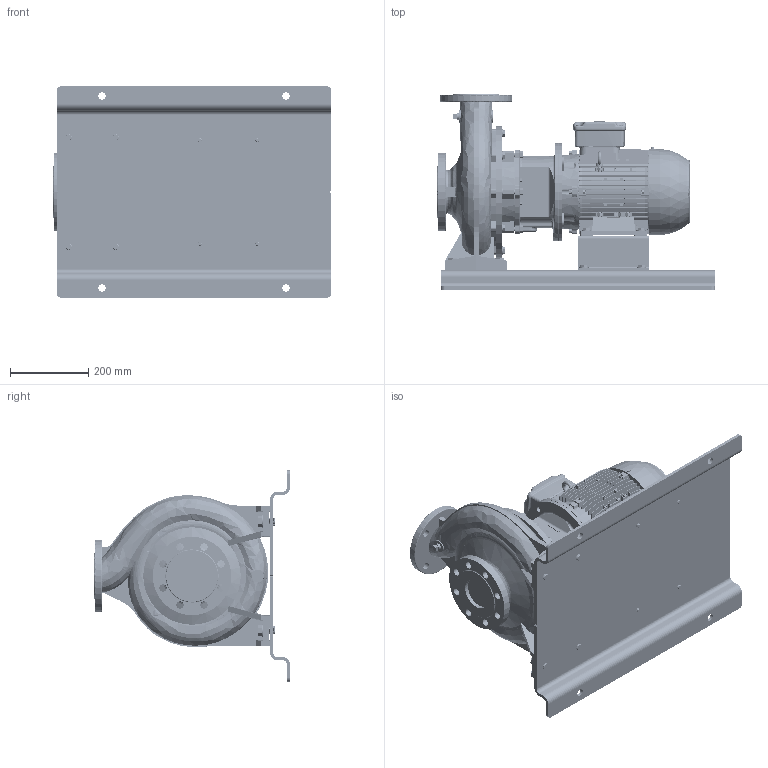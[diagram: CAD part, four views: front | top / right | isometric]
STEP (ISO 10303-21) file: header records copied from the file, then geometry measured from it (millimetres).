
FILE_DESCRIPTION (( 'STEP AP214' ), '1' );
FILE_NAME ('GSD4 65-250_4.0_(112M)_W21_BP.STEP', '2026-05-26T01:17:31', ( '' ), ( '' ), 'SwSTEP 2.0', 'SolidWorks 2024', '' );
FILE_SCHEMA (( 'AUTOMOTIVE_DESIGN' ));
Length unit declared in the file: millimetre
Products named in the file (13): Parametric bolt_SFT-A353B; 140 x 88 - 271472192; N6S6 GSDA-662 F1-1832932-00; Parametric bolt_SFT-A249B; GSD4 65-250_4.0_(112M)_W21_BP; 65-250-112M_ﾃﾞﾌｫﾙﾄ; Parametric Flat Washer_M16; Parametric bolt_SFT-A253B; Parametric bolt and washer_SFT-A353B; Parametric bolt and washer_SFT-A253B; 112M ALIE3_W21T_B35; Parametric bolt and washer_SFT-A249B; Parametric Flat Washer_M10
Assembly tree (22 placements, depth 3):
  GSD4 65-250_4.0_(112M)_W21_BP
    65-250-112M_ﾃﾞﾌｫﾙﾄ
    112M ALIE3_W21T_B35
    N6S6 GSDA-662 F1-1832932-00
    140 x 88 - 271472192
    Parametric bolt and washer_SFT-A249B  x4
      Parametric bolt_SFT-A249B
      Parametric Flat Washer_M10
    Parametric bolt and washer_SFT-A253B  x4
      Parametric bolt_SFT-A253B
      Parametric Flat Washer_M10
    Parametric bolt and washer_SFT-A353B  x4
      Parametric bolt_SFT-A353B
      Parametric Flat Washer_M16
Bounding box: 710 x 500 x 540 mm (x, y, z)
Volume: 29718250.9 mm3; surface area: 2762847.9 mm2
Topology: 37 solids, 39 shells, 5469 faces, 14551 edges, 9452 vertices
Faces by surface type: plane 2794, cylinder 1338, bspline 524, cone 431, torus 371, sphere 11
Entity records: 219972 total; most frequent: CARTESIAN_POINT 102457, ORIENTED_EDGE 26394, DIRECTION 21338, EDGE_CURVE 13197, VERTEX_POINT 8579, LINE 7300, VECTOR 7300, AXIS2_PLACEMENT_3D 7019
